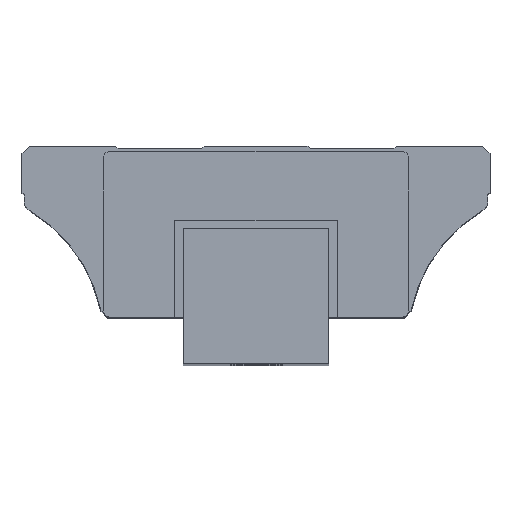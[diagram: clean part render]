
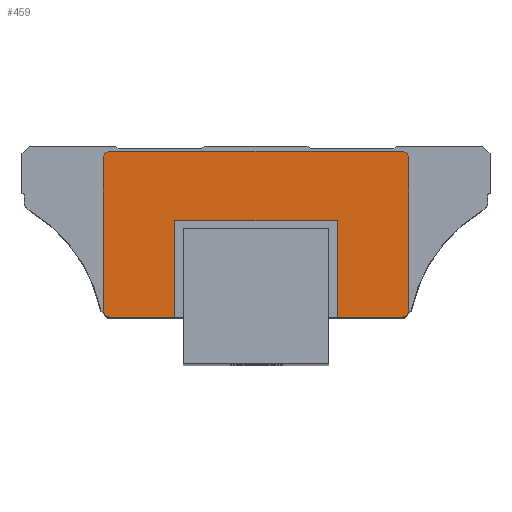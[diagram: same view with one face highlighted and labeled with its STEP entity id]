
A CAD part, top view. The second image highlights one B-rep face of the part: STEP entity #459.
In plain terms, the highlighted planar face has unit normal (0, 0, 1).
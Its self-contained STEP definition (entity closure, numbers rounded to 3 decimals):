
#459 = ADVANCED_FACE( '', ( #767 ), #768, .T. );
#767 = FACE_OUTER_BOUND( '', #1075, .T. );
#768 = PLANE( '', #1076 );
#1075 = EDGE_LOOP( '', ( #2217, #2218, #2219, #2220, #2221, #2222, #2223, #2224, #2225, #2226, #2227, #2228 ) );
#1076 = AXIS2_PLACEMENT_3D( '', #2229, #2230, #2231 );
#2217 = ORIENTED_EDGE( '', *, *, #2589, .F. );
#2218 = ORIENTED_EDGE( '', *, *, #2613, .F. );
#2219 = ORIENTED_EDGE( '', *, *, #2610, .F. );
#2220 = ORIENTED_EDGE( '', *, *, #2607, .F. );
#2221 = ORIENTED_EDGE( '', *, *, #2604, .F. );
#2222 = ORIENTED_EDGE( '', *, *, #2601, .F. );
#2223 = ORIENTED_EDGE( '', *, *, #2581, .F. );
#2224 = ORIENTED_EDGE( '', *, *, #2585, .F. );
#2225 = ORIENTED_EDGE( '', *, *, #2567, .F. );
#2226 = ORIENTED_EDGE( '', *, *, #2599, .F. );
#2227 = ORIENTED_EDGE( '', *, *, #2596, .F. );
#2228 = ORIENTED_EDGE( '', *, *, #2593, .F. );
#2229 = CARTESIAN_POINT( '', ( 14., 26.531, 194.5 ) );
#2230 = DIRECTION( '', ( 0., 0., 1. ) );
#2231 = DIRECTION( '', ( 1., 0., 0. ) );
#2567 = EDGE_CURVE( '', #3143, #3144, #3145, .T. );
#2581 = EDGE_CURVE( '', #3169, #3170, #3171, .T. );
#2585 = EDGE_CURVE( '', #3144, #3169, #3177, .T. );
#2589 = EDGE_CURVE( '', #3181, #3182, #3183, .T. );
#2593 = EDGE_CURVE( '', #3182, #3189, #3190, .T. );
#2596 = EDGE_CURVE( '', #3189, #3194, #3195, .T. );
#2599 = EDGE_CURVE( '', #3194, #3143, #3199, .T. );
#2601 = EDGE_CURVE( '', #3170, #3201, #3202, .T. );
#2604 = EDGE_CURVE( '', #3201, #3206, #3207, .T. );
#2607 = EDGE_CURVE( '', #3206, #3211, #3212, .T. );
#2610 = EDGE_CURVE( '', #3211, #3216, #3217, .T. );
#2613 = EDGE_CURVE( '', #3216, #3181, #3221, .T. );
#3143 = VERTEX_POINT( '', #4223 );
#3144 = VERTEX_POINT( '', #4224 );
#3145 = LINE( '', #4225, #4226 );
#3169 = VERTEX_POINT( '', #4263 );
#3170 = VERTEX_POINT( '', #4264 );
#3171 = LINE( '', #4265, #4266 );
#3177 = LINE( '', #4275, #4276 );
#3181 = VERTEX_POINT( '', #4283 );
#3182 = VERTEX_POINT( '', #4284 );
#3183 = CIRCLE( '', #4285, 1.5 );
#3189 = VERTEX_POINT( '', #4293 );
#3190 = LINE( '', #4294, #4295 );
#3194 = VERTEX_POINT( '', #4301 );
#3195 = CIRCLE( '', #4302, 1.5 );
#3199 = LINE( '', #4307, #4308 );
#3201 = VERTEX_POINT( '', #4311 );
#3202 = LINE( '', #4312, #4313 );
#3206 = VERTEX_POINT( '', #4319 );
#3207 = CIRCLE( '', #4320, 1.5 );
#3211 = VERTEX_POINT( '', #4325 );
#3212 = LINE( '', #4326, #4327 );
#3216 = VERTEX_POINT( '', #4333 );
#3217 = CIRCLE( '', #4334, 1.5 );
#3221 = LINE( '', #4339, #4340 );
#4223 = CARTESIAN_POINT( '', ( 29.6, 9., 194.5 ) );
#4224 = CARTESIAN_POINT( '', ( 29.6, 27.6, 194.5 ) );
#4225 = CARTESIAN_POINT( '', ( 29.6, 9., 194.5 ) );
#4226 = VECTOR( '', #4831, 1. );
#4263 = CARTESIAN_POINT( '', ( -1.6, 27.6, 194.5 ) );
#4264 = CARTESIAN_POINT( '', ( -1.6, 9., 194.5 ) );
#4265 = CARTESIAN_POINT( '', ( -1.6, 27.6, 194.5 ) );
#4266 = VECTOR( '', #4845, 1. );
#4275 = CARTESIAN_POINT( '', ( 29.6, 27.6, 194.5 ) );
#4276 = VECTOR( '', #4849, 1. );
#4283 = CARTESIAN_POINT( '', ( 41.9, 41., 194.5 ) );
#4284 = CARTESIAN_POINT( '', ( 43.4, 39.5, 194.5 ) );
#4285 = AXIS2_PLACEMENT_3D( '', #4853, #4854, #4855 );
#4293 = CARTESIAN_POINT( '', ( 43.4, 10.5, 194.5 ) );
#4294 = CARTESIAN_POINT( '', ( 43.4, 10.5, 194.5 ) );
#4295 = VECTOR( '', #4861, 1. );
#4301 = CARTESIAN_POINT( '', ( 41.9, 9., 194.5 ) );
#4302 = AXIS2_PLACEMENT_3D( '', #4864, #4865, #4866 );
#4307 = CARTESIAN_POINT( '', ( 29.6, 9., 194.5 ) );
#4308 = VECTOR( '', #4871, 1. );
#4311 = CARTESIAN_POINT( '', ( -13.9, 9., 194.5 ) );
#4312 = CARTESIAN_POINT( '', ( -13.9, 9., 194.5 ) );
#4313 = VECTOR( '', #4873, 1. );
#4319 = CARTESIAN_POINT( '', ( -15.4, 10.5, 194.5 ) );
#4320 = AXIS2_PLACEMENT_3D( '', #4876, #4877, #4878 );
#4325 = CARTESIAN_POINT( '', ( -15.4, 39.5, 194.5 ) );
#4326 = CARTESIAN_POINT( '', ( -15.4, 10.5, 194.5 ) );
#4327 = VECTOR( '', #4883, 1. );
#4333 = CARTESIAN_POINT( '', ( -13.9, 41., 194.5 ) );
#4334 = AXIS2_PLACEMENT_3D( '', #4886, #4887, #4888 );
#4339 = CARTESIAN_POINT( '', ( 41.9, 41., 194.5 ) );
#4340 = VECTOR( '', #4893, 1. );
#4831 = DIRECTION( '', ( 0., 1., 0. ) );
#4845 = DIRECTION( '', ( 0., -1., 0. ) );
#4849 = DIRECTION( '', ( -1., 0., 0. ) );
#4853 = CARTESIAN_POINT( '', ( 41.9, 39.5, 194.5 ) );
#4854 = DIRECTION( '', ( 0., 0., -1. ) );
#4855 = DIRECTION( '', ( 1., 0., 0. ) );
#4861 = DIRECTION( '', ( 0., -1., 0. ) );
#4864 = CARTESIAN_POINT( '', ( 41.9, 10.5, 194.5 ) );
#4865 = DIRECTION( '', ( 0., 0., -1. ) );
#4866 = DIRECTION( '', ( 1., 0., 0. ) );
#4871 = DIRECTION( '', ( -1., 0., 0. ) );
#4873 = DIRECTION( '', ( -1., 0., 0. ) );
#4876 = CARTESIAN_POINT( '', ( -13.9, 10.5, 194.5 ) );
#4877 = DIRECTION( '', ( 0., 0., -1. ) );
#4878 = DIRECTION( '', ( 1., 0., 0. ) );
#4883 = DIRECTION( '', ( 0., 1., 0. ) );
#4886 = CARTESIAN_POINT( '', ( -13.9, 39.5, 194.5 ) );
#4887 = DIRECTION( '', ( 0., 0., -1. ) );
#4888 = DIRECTION( '', ( 1., 0., 0. ) );
#4893 = DIRECTION( '', ( 1., 0., 0. ) );
